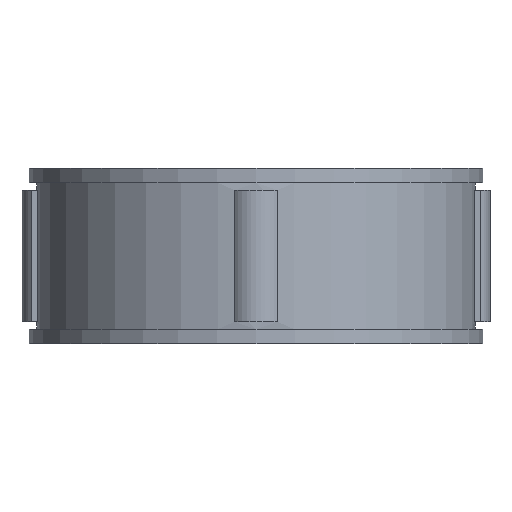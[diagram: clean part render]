
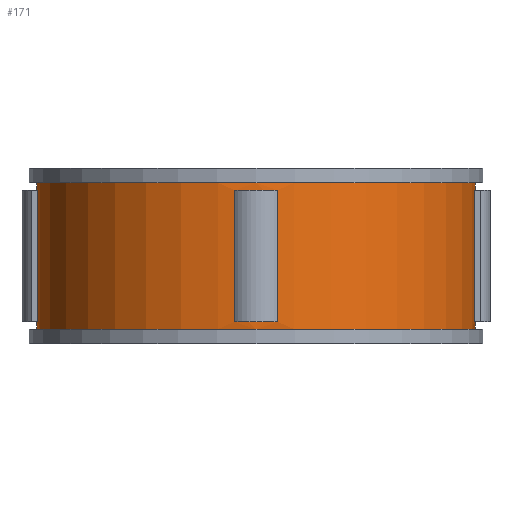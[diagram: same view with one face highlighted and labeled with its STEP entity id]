
A CAD part, front view. The second image highlights one B-rep face of the part: STEP entity #171.
In plain terms, the highlighted cylindrical face has radius 15 mm (diameter 30 mm), a full revolution.
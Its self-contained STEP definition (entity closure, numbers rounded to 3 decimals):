
#171=ADVANCED_FACE('',(#359,#360,#361,#362,#363,#364),#219,.T.);
#219=CYLINDRICAL_SURFACE('',#882,15.);
#231=LINE('',#1207,#295);
#232=LINE('',#1212,#296);
#233=LINE('',#1215,#297);
#234=LINE('',#1220,#298);
#235=LINE('',#1223,#299);
#236=LINE('',#1228,#300);
#237=LINE('',#1234,#301);
#238=LINE('',#1238,#302);
#295=VECTOR('',#966,1.);
#296=VECTOR('',#969,1.);
#297=VECTOR('',#972,1.);
#298=VECTOR('',#975,1.);
#299=VECTOR('',#978,1.);
#300=VECTOR('',#981,1.);
#301=VECTOR('',#986,1.);
#302=VECTOR('',#989,1.);
#359=FACE_BOUND('',#383,.T.);
#360=FACE_BOUND('',#384,.T.);
#361=FACE_BOUND('',#385,.T.);
#362=FACE_BOUND('',#386,.T.);
#363=FACE_BOUND('',#387,.T.);
#364=FACE_BOUND('',#388,.T.);
#383=EDGE_LOOP('',(#447));
#384=EDGE_LOOP('',(#448));
#385=EDGE_LOOP('',(#449,#450,#451,#452));
#386=EDGE_LOOP('',(#453,#454,#455,#456));
#387=EDGE_LOOP('',(#457,#458,#459,#460));
#388=EDGE_LOOP('',(#461,#462,#463,#464));
#447=ORIENTED_EDGE('',*,*,#727,.F.);
#448=ORIENTED_EDGE('',*,*,#728,.T.);
#449=ORIENTED_EDGE('',*,*,#729,.F.);
#450=ORIENTED_EDGE('',*,*,#730,.T.);
#451=ORIENTED_EDGE('',*,*,#731,.F.);
#452=ORIENTED_EDGE('',*,*,#732,.F.);
#453=ORIENTED_EDGE('',*,*,#733,.F.);
#454=ORIENTED_EDGE('',*,*,#734,.T.);
#455=ORIENTED_EDGE('',*,*,#735,.F.);
#456=ORIENTED_EDGE('',*,*,#736,.F.);
#457=ORIENTED_EDGE('',*,*,#737,.F.);
#458=ORIENTED_EDGE('',*,*,#738,.T.);
#459=ORIENTED_EDGE('',*,*,#739,.F.);
#460=ORIENTED_EDGE('',*,*,#740,.F.);
#461=ORIENTED_EDGE('',*,*,#741,.F.);
#462=ORIENTED_EDGE('',*,*,#742,.T.);
#463=ORIENTED_EDGE('',*,*,#743,.T.);
#464=ORIENTED_EDGE('',*,*,#744,.T.);
#655=VERTEX_POINT('',#1204);
#656=VERTEX_POINT('',#1206);
#657=VERTEX_POINT('',#1208);
#658=VERTEX_POINT('',#1209);
#659=VERTEX_POINT('',#1211);
#660=VERTEX_POINT('',#1213);
#661=VERTEX_POINT('',#1216);
#662=VERTEX_POINT('',#1217);
#663=VERTEX_POINT('',#1219);
#664=VERTEX_POINT('',#1221);
#665=VERTEX_POINT('',#1224);
#666=VERTEX_POINT('',#1225);
#667=VERTEX_POINT('',#1227);
#668=VERTEX_POINT('',#1229);
#669=VERTEX_POINT('',#1232);
#670=VERTEX_POINT('',#1233);
#671=VERTEX_POINT('',#1235);
#672=VERTEX_POINT('',#1237);
#727=EDGE_CURVE('',#655,#655,#831,.T.);
#728=EDGE_CURVE('',#656,#656,#832,.T.);
#729=EDGE_CURVE('',#657,#658,#231,.T.);
#730=EDGE_CURVE('',#657,#659,#833,.T.);
#731=EDGE_CURVE('',#660,#659,#232,.T.);
#732=EDGE_CURVE('',#658,#660,#834,.T.);
#733=EDGE_CURVE('',#661,#662,#233,.T.);
#734=EDGE_CURVE('',#661,#663,#835,.T.);
#735=EDGE_CURVE('',#664,#663,#234,.T.);
#736=EDGE_CURVE('',#662,#664,#836,.T.);
#737=EDGE_CURVE('',#665,#666,#235,.T.);
#738=EDGE_CURVE('',#665,#667,#837,.T.);
#739=EDGE_CURVE('',#668,#667,#236,.T.);
#740=EDGE_CURVE('',#666,#668,#838,.T.);
#741=EDGE_CURVE('',#669,#670,#839,.T.);
#742=EDGE_CURVE('',#669,#671,#237,.T.);
#743=EDGE_CURVE('',#671,#672,#840,.T.);
#744=EDGE_CURVE('',#672,#670,#238,.T.);
#831=CIRCLE('',#872,15.);
#832=CIRCLE('',#873,15.);
#833=CIRCLE('',#874,15.);
#834=CIRCLE('',#875,15.);
#835=CIRCLE('',#876,15.);
#836=CIRCLE('',#877,15.);
#837=CIRCLE('',#878,15.);
#838=CIRCLE('',#879,15.);
#839=CIRCLE('',#880,15.);
#840=CIRCLE('',#881,15.);
#872=AXIS2_PLACEMENT_3D('',#1203,#962,#963);
#873=AXIS2_PLACEMENT_3D('',#1205,#964,#965);
#874=AXIS2_PLACEMENT_3D('',#1210,#967,#968);
#875=AXIS2_PLACEMENT_3D('',#1214,#970,#971);
#876=AXIS2_PLACEMENT_3D('',#1218,#973,#974);
#877=AXIS2_PLACEMENT_3D('',#1222,#976,#977);
#878=AXIS2_PLACEMENT_3D('',#1226,#979,#980);
#879=AXIS2_PLACEMENT_3D('',#1230,#982,#983);
#880=AXIS2_PLACEMENT_3D('',#1231,#984,#985);
#881=AXIS2_PLACEMENT_3D('',#1236,#987,#988);
#882=AXIS2_PLACEMENT_3D('',#1239,#990,#991);
#962=DIRECTION('',(0.,0.,1.));
#963=DIRECTION('',(1.,0.,0.));
#964=DIRECTION('',(0.,0.,1.));
#965=DIRECTION('',(1.,0.,0.));
#966=DIRECTION('',(0.,0.,-1.));
#967=DIRECTION('',(0.,0.,1.));
#968=DIRECTION('',(1.,0.,0.));
#969=DIRECTION('',(0.,0.,1.));
#970=DIRECTION('',(0.,0.,1.));
#971=DIRECTION('',(1.,0.,0.));
#972=DIRECTION('',(0.,0.,-1.));
#973=DIRECTION('',(0.,0.,1.));
#974=DIRECTION('',(1.,0.,0.));
#975=DIRECTION('',(0.,0.,1.));
#976=DIRECTION('',(0.,0.,1.));
#977=DIRECTION('',(1.,0.,0.));
#978=DIRECTION('',(0.,0.,-1.));
#979=DIRECTION('',(0.,0.,1.));
#980=DIRECTION('',(1.,0.,0.));
#981=DIRECTION('',(0.,0.,1.));
#982=DIRECTION('',(0.,0.,1.));
#983=DIRECTION('',(1.,0.,0.));
#984=DIRECTION('',(0.,0.,-1.));
#985=DIRECTION('',(-1.,0.,0.));
#986=DIRECTION('',(0.,0.,-1.));
#987=DIRECTION('',(0.,0.,-1.));
#988=DIRECTION('',(-1.,0.,0.));
#989=DIRECTION('',(0.,0.,1.));
#990=DIRECTION('',(0.,0.,-1.));
#991=DIRECTION('',(-1.,0.,0.));
#1203=CARTESIAN_POINT('',(0.,0.,11.));
#1204=CARTESIAN_POINT('',(15.,0.,11.));
#1205=CARTESIAN_POINT('',(0.,0.,1.));
#1206=CARTESIAN_POINT('',(15.,0.,1.));
#1207=CARTESIAN_POINT('',(14.928,-1.471,12.));
#1208=CARTESIAN_POINT('',(14.928,-1.471,10.5));
#1209=CARTESIAN_POINT('',(14.928,-1.471,1.5));
#1210=CARTESIAN_POINT('',(0.,0.,10.5));
#1211=CARTESIAN_POINT('',(14.928,1.471,10.5));
#1212=CARTESIAN_POINT('',(14.928,1.471,12.));
#1213=CARTESIAN_POINT('',(14.928,1.471,1.5));
#1214=CARTESIAN_POINT('',(0.,0.,1.5));
#1215=CARTESIAN_POINT('',(1.471,14.928,12.));
#1216=CARTESIAN_POINT('',(1.471,14.928,10.5));
#1217=CARTESIAN_POINT('',(1.471,14.928,1.5));
#1218=CARTESIAN_POINT('',(0.,0.,10.5));
#1219=CARTESIAN_POINT('',(-1.471,14.928,10.5));
#1220=CARTESIAN_POINT('',(-1.471,14.928,12.));
#1221=CARTESIAN_POINT('',(-1.471,14.928,1.5));
#1222=CARTESIAN_POINT('',(0.,0.,1.5));
#1223=CARTESIAN_POINT('',(-14.928,1.471,12.));
#1224=CARTESIAN_POINT('',(-14.928,1.471,10.5));
#1225=CARTESIAN_POINT('',(-14.928,1.471,1.5));
#1226=CARTESIAN_POINT('',(0.,0.,10.5));
#1227=CARTESIAN_POINT('',(-14.928,-1.471,10.5));
#1228=CARTESIAN_POINT('',(-14.928,-1.471,12.));
#1229=CARTESIAN_POINT('',(-14.928,-1.471,1.5));
#1230=CARTESIAN_POINT('',(0.,0.,1.5));
#1231=CARTESIAN_POINT('',(0.,0.,10.5));
#1232=CARTESIAN_POINT('',(1.471,-14.928,10.5));
#1233=CARTESIAN_POINT('',(-1.471,-14.928,10.5));
#1234=CARTESIAN_POINT('',(1.471,-14.928,12.));
#1235=CARTESIAN_POINT('',(1.471,-14.928,1.5));
#1236=CARTESIAN_POINT('',(0.,0.,1.5));
#1237=CARTESIAN_POINT('',(-1.471,-14.928,1.5));
#1238=CARTESIAN_POINT('',(-1.471,-14.928,12.));
#1239=CARTESIAN_POINT('',(0.,0.,12.));
